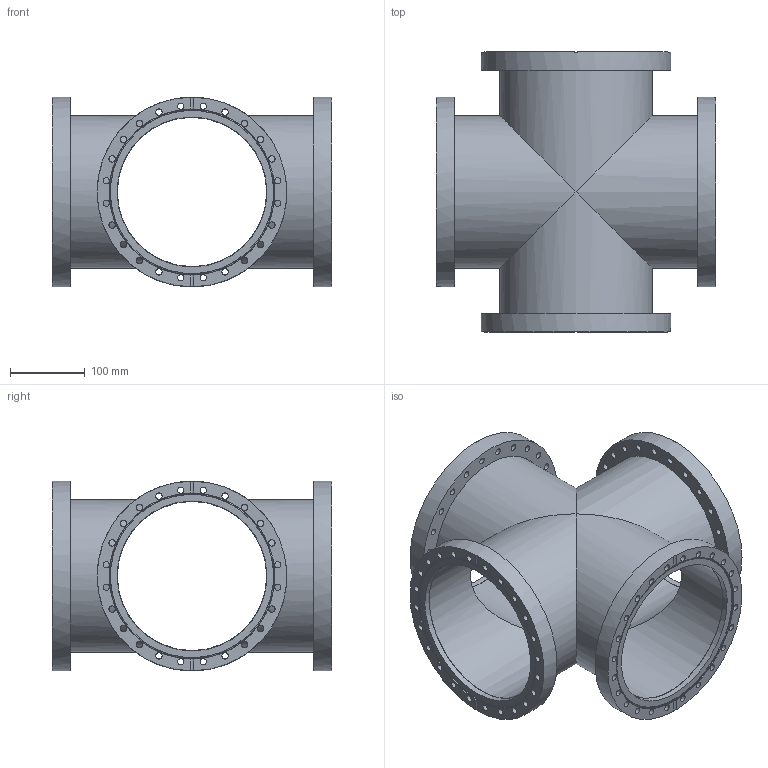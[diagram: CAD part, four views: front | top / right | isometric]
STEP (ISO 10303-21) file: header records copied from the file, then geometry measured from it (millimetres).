
FILE_DESCRIPTION( ( 'Unknown' ), '1' );
FILE_NAME( 'X:/Daten ( aktueller Bestand )/Projekte und Zeichnungen/Solid Edge/STP-Dateien/CF-Teile/7116R.stp', 'Unknown', ( 'Unknown' ), ( 'Unknown' ), 'PSStep 14.0', 'Unknown', ' ' );
FILE_SCHEMA( ( 'AUTOMOTIVE_DESIGN { 1 0 10303 214 1 1 1 1 }' ) );
Length unit declared in the file: millimetre
Products named in the file (6): 7516R; 7516R-1; 7516R-2; Assem1; 7516F; 7116-1
Assembly tree (7 placements, depth 3):
  Assem1
    7516F  x2
    7116-1
    7516R  x2
      7516R-1
      7516R-2
Bounding box: 375 x 375 x 254 mm (x, y, z)
Volume: 2184656.5 mm3; surface area: 995383.2 mm2
Topology: 7 solids, 7 shells, 168 faces, 538 edges, 386 vertices
Faces by surface type: cylinder 132, plane 28, cone 8
Full cylindrical faces by diameter (mm): 8.4 x96, 200 x4, 200.5 x4, 204 x4, 205.5 x4, 206.5 x2, 222 x4, 222.4 x2, 254 x4
Entity records: 3582 total; most frequent: CARTESIAN_POINT 535, DIRECTION 486, ORIENTED_EDGE 312, EDGE_LOOP 268, AXIS2_PLACEMENT_3D 239, FACE_OUTER_BOUND 156, EDGE_CURVE 156, VERTEX_POINT 144
